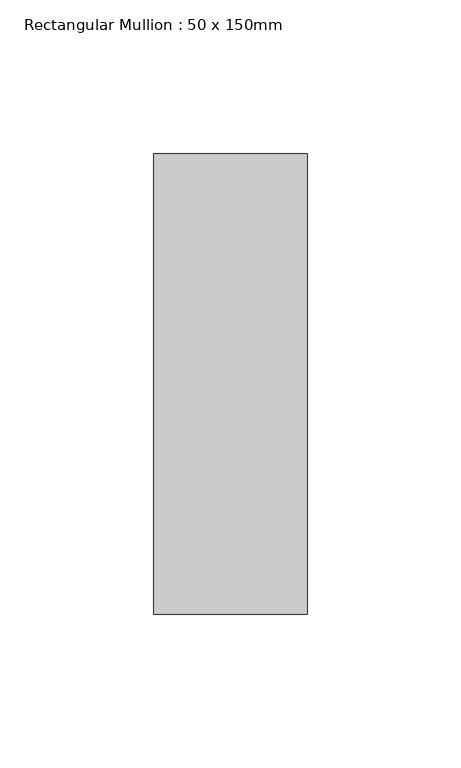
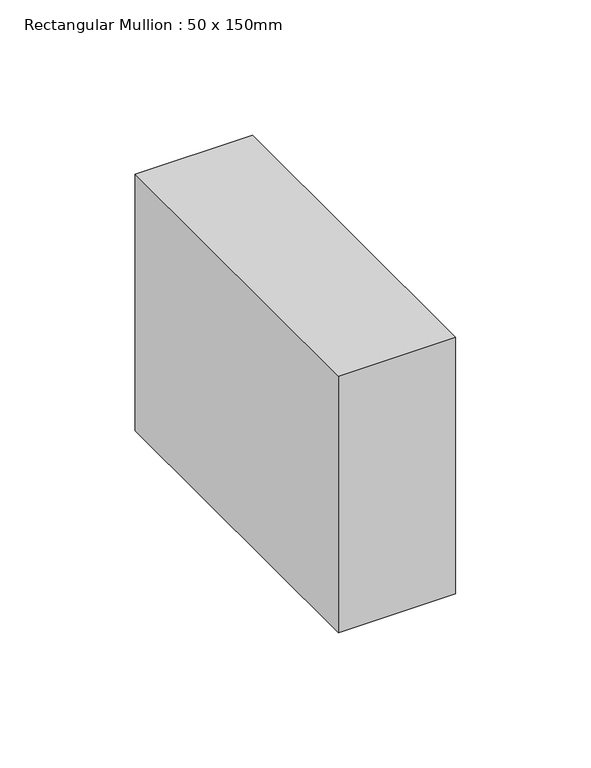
"""IFC4 building model written with IfcOpenShell, lengths in millimetres: member geometry, Rectangular Mullion : 50 x 150mm."""

from ifc_helpers import new_model, si_unit, frame, origin, place, context, project, spatial, polyline, outline, extrude, source, transform, mapped, element, save


def rectangular_mullion_50_x_150mm_df767b7e(model_context):
    return source(origin(), model_context, "Body", "SweptSolid", [
        extrude(outline(polyline([(25.0, 75.0), (25.0, -75.0), (-25.0, -75.0), (-25.0, 75.0), (25.0, 75.0)])), frame((0.0, 0.0, -115.5499042), z_axis=(0.0, 0.0, 1.0), x_axis=(1.0, 0.0, 0.0)), (0.0, 0.0, 1.0), 115.5499042),
    ])


if __name__ == "__main__":
    model = new_model("IFC4")
    model_context = context("Model", 3, world=origin())
    ifc_project = project(units=[si_unit("LENGTHUNIT", "METRE", prefix="MILLI")], contexts=[model_context])
    site = spatial("IfcSite", under=ifc_project)
    building = spatial("IfcBuilding", under=site)
    placement = place(None, origin())
    rectangular_mullion_50_x_150mm_shape = rectangular_mullion_50_x_150mm_df767b7e(model_context)
    element("IfcMember", 1, ObjectType="Rectangular Mullion : 50 x 150mm", at=placement, inside=building, context=model_context, shape_type="MappedRepresentation", body=[
        mapped(rectangular_mullion_50_x_150mm_shape, transform((0.0, 0.0, 0.0), x_axis=(1.0, 0.0, 0.0), y_axis=(0.0, 1.0, 0.0), z_axis=(0.0, 0.0, 1.0))),
    ])
    save(model, "model.ifc")
